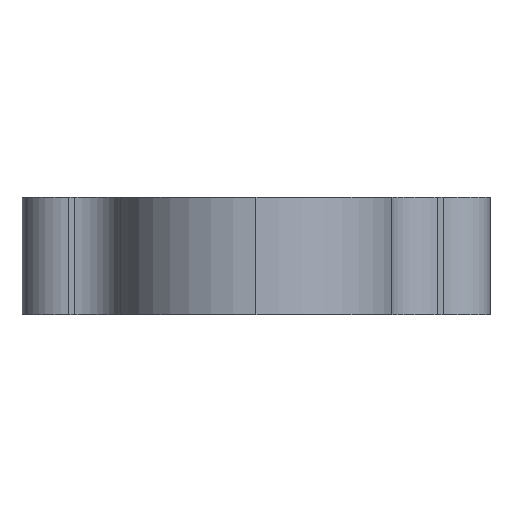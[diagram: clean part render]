
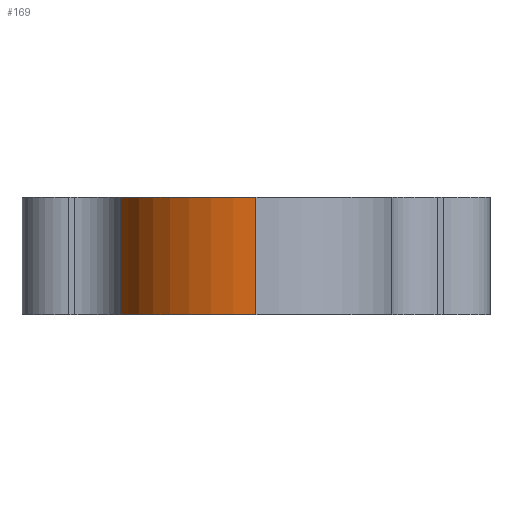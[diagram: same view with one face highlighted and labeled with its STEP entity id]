
A CAD part, left-side view. The second image highlights one B-rep face of the part: STEP entity #169.
In plain terms, the highlighted cylindrical face has radius 6 mm (diameter 12 mm), a partial arc.
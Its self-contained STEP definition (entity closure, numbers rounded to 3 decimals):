
#21 = VERTEX_POINT ( 'NONE', #146 ) ;
#56 = CARTESIAN_POINT ( 'NONE',  ( -55.282, 50.497, 19.326 ) ) ;
#68 = CYLINDRICAL_SURFACE ( 'NONE', #1052, 6. ) ;
#97 = VERTEX_POINT ( 'NONE', #56 ) ;
#121 = CARTESIAN_POINT ( 'NONE',  ( -53.782, 44.688, 14.326 ) ) ;
#137 = AXIS2_PLACEMENT_3D ( 'NONE', #121, #400, #611 ) ;
#146 = CARTESIAN_POINT ( 'NONE',  ( -59.782, 44.688, 19.326 ) ) ;
#169 = ADVANCED_FACE ( 'NONE', ( #1166 ), #68, .T. ) ;
#179 = EDGE_CURVE ( 'NONE', #97, #862, #685, .T. ) ;
#343 = EDGE_CURVE ( 'NONE', #862, #1056, #762, .T. ) ;
#366 = DIRECTION ( 'NONE',  ( 0., 0., -1. ) ) ;
#393 = EDGE_CURVE ( 'NONE', #97, #21, #907, .T. ) ;
#397 = ORIENTED_EDGE ( 'NONE', *, *, #1149, .F. ) ;
#400 = DIRECTION ( 'NONE',  ( 0., 0., 1. ) ) ;
#408 = ORIENTED_EDGE ( 'NONE', *, *, #393, .F. ) ;
#444 = ORIENTED_EDGE ( 'NONE', *, *, #343, .T. ) ;
#467 = CARTESIAN_POINT ( 'NONE',  ( -55.282, 50.497, 19.326 ) ) ;
#490 = CARTESIAN_POINT ( 'NONE',  ( -55.282, 50.497, 14.326 ) ) ;
#515 = EDGE_LOOP ( 'NONE', ( #397, #408, #530, #444 ) ) ;
#530 = ORIENTED_EDGE ( 'NONE', *, *, #179, .T. ) ;
#564 = CARTESIAN_POINT ( 'NONE',  ( -59.782, 44.688, 19.326 ) ) ;
#611 = DIRECTION ( 'NONE',  ( 1., 0., 0. ) ) ;
#619 = CARTESIAN_POINT ( 'NONE',  ( -53.782, 44.688, 19.326 ) ) ;
#685 = LINE ( 'NONE', #467, #1274 ) ;
#693 = DIRECTION ( 'NONE',  ( 0., 0., -1. ) ) ;
#702 = DIRECTION ( 'NONE',  ( 0., 0., 1. ) ) ;
#762 = CIRCLE ( 'NONE', #137, 6. ) ;
#764 = LINE ( 'NONE', #564, #1178 ) ;
#862 = VERTEX_POINT ( 'NONE', #490 ) ;
#875 = DIRECTION ( 'NONE',  ( -1., 0., 0. ) ) ;
#889 = DIRECTION ( 'NONE',  ( 0., 0., -1. ) ) ;
#907 = CIRCLE ( 'NONE', #1034, 6. ) ;
#1034 = AXIS2_PLACEMENT_3D ( 'NONE', #619, #702, #1091 ) ;
#1052 = AXIS2_PLACEMENT_3D ( 'NONE', #1180, #889, #875 ) ;
#1056 = VERTEX_POINT ( 'NONE', #1141 ) ;
#1091 = DIRECTION ( 'NONE',  ( 1., 0., 0. ) ) ;
#1141 = CARTESIAN_POINT ( 'NONE',  ( -59.782, 44.688, 14.326 ) ) ;
#1149 = EDGE_CURVE ( 'NONE', #21, #1056, #764, .T. ) ;
#1166 = FACE_OUTER_BOUND ( 'NONE', #515, .T. ) ;
#1178 = VECTOR ( 'NONE', #366, 1000. ) ;
#1180 = CARTESIAN_POINT ( 'NONE',  ( -53.782, 44.688, 19.326 ) ) ;
#1274 = VECTOR ( 'NONE', #693, 1000. ) ;
